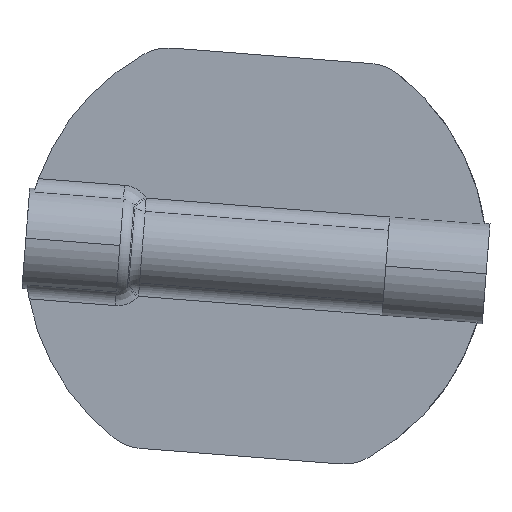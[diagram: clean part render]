
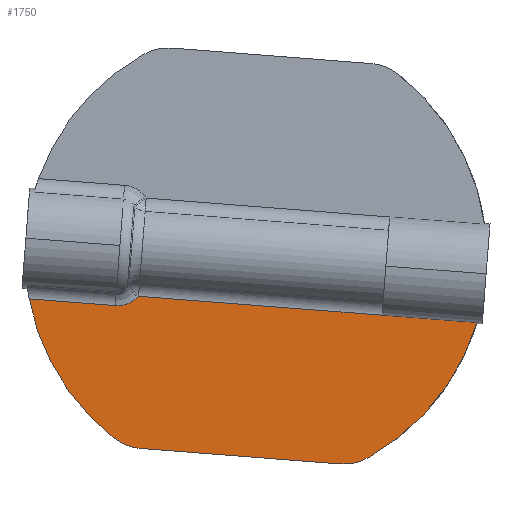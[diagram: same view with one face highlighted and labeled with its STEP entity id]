
A CAD part, front view. The second image highlights one B-rep face of the part: STEP entity #1750.
In plain terms, the highlighted planar face has unit normal (0, -1, 0).
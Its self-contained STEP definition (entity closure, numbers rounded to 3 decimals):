
#1=DIRECTION('',(0.997,0.,-0.077));
#2=VECTOR('',#1,24.299);
#3=CARTESIAN_POINT('',(354.467,-1.,155.317));
#4=LINE('',#3,#2);
#5=DIRECTION('',(0.997,0.,-0.077));
#6=VECTOR('',#5,9.471);
#7=CARTESIAN_POINT('',(378.692,-1.,153.438));
#8=LINE('',#7,#6);
#9=CARTESIAN_POINT('',(374.878,-1.,143.627));
#10=DIRECTION('',(0.,-1.,0.));
#11=DIRECTION('',(-0.077,0.,-0.997));
#12=AXIS2_PLACEMENT_3D('',#9,#10,#11);
#14=DIRECTION('',(-0.997,0.,0.077));
#15=VECTOR('',#14,19.83);
#16=CARTESIAN_POINT('',(374.491,-1.,138.642));
#17=LINE('',#16,#15);
#18=CARTESIAN_POINT('',(355.107,-1.,145.16));
#19=DIRECTION('',(0.,-1.,0.));
#20=DIRECTION('',(-0.615,0.,-0.789));
#21=AXIS2_PLACEMENT_3D('',#18,#19,#20);
#23=DIRECTION('',(0.997,0.,-0.077));
#24=VECTOR('',#23,8.581);
#25=CARTESIAN_POINT('',(343.59,-1.,155.056));
#26=LINE('',#25,#24);
#27=CARTESIAN_POINT('',(352.145,-1.,154.392));
#28=CARTESIAN_POINT('',(352.259,-1.,154.383));
#29=CARTESIAN_POINT('',(352.484,-1.,154.38));
#30=CARTESIAN_POINT('',(352.807,-1.,154.414));
#31=CARTESIAN_POINT('',(353.131,-1.,154.486));
#32=CARTESIAN_POINT('',(353.445,-1.,154.597));
#33=CARTESIAN_POINT('',(353.749,-1.,154.746));
#34=CARTESIAN_POINT('',(354.052,-1.,154.942));
#35=CARTESIAN_POINT('',(354.242,-1.,155.102));
#36=CARTESIAN_POINT('',(354.335,-1.,155.191));
#38=CARTESIAN_POINT('',(354.335,-1.,155.191));
#39=CARTESIAN_POINT('',(354.35,-1.,155.204));
#40=CARTESIAN_POINT('',(354.379,-1.,155.232));
#41=CARTESIAN_POINT('',(354.422,-1.,155.274));
#42=CARTESIAN_POINT('',(354.452,-1.,155.302));
#43=CARTESIAN_POINT('',(354.467,-1.,155.317));
#220=CARTESIAN_POINT('',(366.15,-1.,159.324));
#221=DIRECTION('',(0.,-1.,0.));
#222=DIRECTION('',(-0.983,0.,-0.186));
#223=AXIS2_PLACEMENT_3D('',#220,#221,#222);
#1045=CARTESIAN_POINT('',(366.15,-1.,159.324));
#1046=DIRECTION('',(0.,-1.,0.));
#1047=DIRECTION('',(0.486,0.,-0.874));
#1048=AXIS2_PLACEMENT_3D('',#1045,#1046,#1047);
#1589=CARTESIAN_POINT('',(374.491,-1.,138.642));
#1590=CARTESIAN_POINT('',(377.307,-1.,139.257));
#1591=VERTEX_POINT('',#1589);
#1592=VERTEX_POINT('',#1590);
#1605=CARTESIAN_POINT('',(352.033,-1.,141.217));
#1606=CARTESIAN_POINT('',(354.721,-1.,140.175));
#1607=VERTEX_POINT('',#1605);
#1608=VERTEX_POINT('',#1606);
#1621=CARTESIAN_POINT('',(388.135,-1.,152.706));
#1622=VERTEX_POINT('',#1621);
#1632=CARTESIAN_POINT('',(378.692,-1.,153.438));
#1634=VERTEX_POINT('',#1632);
#1635=CARTESIAN_POINT('',(354.467,-1.,155.317));
#1636=VERTEX_POINT('',#1635);
#1641=VERTEX_POINT('',#38);
#1643=VERTEX_POINT('',#27);
#1647=CARTESIAN_POINT('',(343.59,-1.,155.056));
#1648=VERTEX_POINT('',#1647);
#1723=CARTESIAN_POINT('',(0.,-1.,0.));
#1724=DIRECTION('',(0.,1.,0.));
#1725=DIRECTION('',(1.,0.,0.));
#1726=AXIS2_PLACEMENT_3D('',#1723,#1724,#1725);
#1727=PLANE('',#1726);
#1729=ORIENTED_EDGE('',*,*,#1728,.T.);
#1731=ORIENTED_EDGE('',*,*,#1730,.T.);
#1733=ORIENTED_EDGE('',*,*,#1732,.F.);
#1735=ORIENTED_EDGE('',*,*,#1734,.F.);
#1737=ORIENTED_EDGE('',*,*,#1736,.T.);
#1739=ORIENTED_EDGE('',*,*,#1738,.F.);
#1741=ORIENTED_EDGE('',*,*,#1740,.F.);
#1743=ORIENTED_EDGE('',*,*,#1742,.T.);
#1745=ORIENTED_EDGE('',*,*,#1744,.T.);
#1747=ORIENTED_EDGE('',*,*,#1746,.T.);
#1748=EDGE_LOOP('',(#1729,#1731,#1733,#1735,#1737,#1739,#1741,#1743,#1745,
#1747));
#1749=FACE_OUTER_BOUND('',#1748,.F.);
#1750=ADVANCED_FACE('',(#1749),#1727,.F.);
#13=CIRCLE('',#12,5.);
#22=CIRCLE('',#21,5.);
#37=B_SPLINE_CURVE_WITH_KNOTS('',3,(#27,#28,#29,#30,#31,#32,#33,#34,#35,#36),
.UNSPECIFIED.,.F.,.F.,(4,1,1,1,1,1,1,4),(0.,0.143,
0.286,0.429,0.571,0.714,
0.857,1.),.UNSPECIFIED.);
#44=B_SPLINE_CURVE_WITH_KNOTS('',3,(#38,#39,#40,#41,#42,#43),.UNSPECIFIED.,.F.,
.F.,(4,1,1,4),(0.,0.333,0.667,1.),.UNSPECIFIED.);
#224=CIRCLE('',#223,22.96);
#1049=CIRCLE('',#1048,22.96);
#1728=EDGE_CURVE('',#1636,#1634,#4,.T.);
#1730=EDGE_CURVE('',#1634,#1622,#8,.T.);
#1732=EDGE_CURVE('',#1592,#1622,#1049,.T.);
#1734=EDGE_CURVE('',#1591,#1592,#13,.T.);
#1736=EDGE_CURVE('',#1591,#1608,#17,.T.);
#1738=EDGE_CURVE('',#1607,#1608,#22,.T.);
#1740=EDGE_CURVE('',#1648,#1607,#224,.T.);
#1742=EDGE_CURVE('',#1648,#1643,#26,.T.);
#1744=EDGE_CURVE('',#1643,#1641,#37,.T.);
#1746=EDGE_CURVE('',#1641,#1636,#44,.T.);
